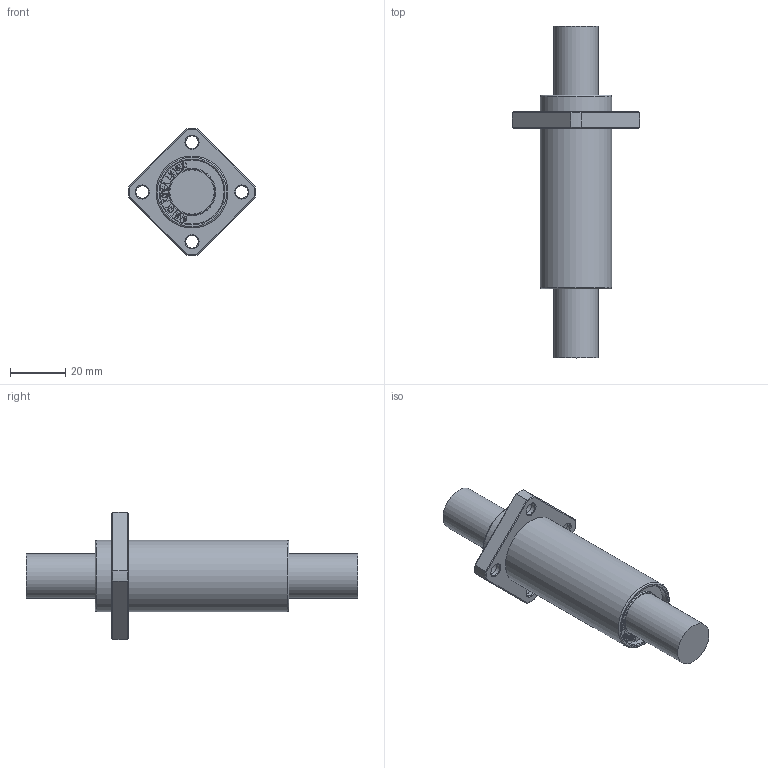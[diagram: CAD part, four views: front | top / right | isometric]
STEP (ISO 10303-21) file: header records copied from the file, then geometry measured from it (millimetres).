
FILE_DESCRIPTION(/* description */ (''),/* implementation_level */ '2;1');
FILE_NAME(/* name */ 'W:\(01) 2024년 홈페이지 CAD파일 최신화\LMEKP_L\IPT\LMEKP16LUU.stp',/* time_stamp */ '2025-01-25T13:04:07+09:00',/* author */ ('서우현'),/* organization */ (''),/* preprocessor_version */ 'ST-DEVELOPER v17.2',/* originating_system */ 'Autodesk Inventor 2019',/* authorisation */ '');
FILE_SCHEMA (('AUTOMOTIVE_DESIGN { 1 0 10303 214 3 1 1 }'));
Length unit declared in the file: millimetre
Products named in the file (1): LM5
Bounding box: 45.98 x 120 x 45.98 mm (x, y, z)
Volume: 49319.9 mm3; surface area: 11814.4 mm2
Topology: 1 solids, 1 shells, 866 faces, 2424 edges, 1616 vertices
Faces by surface type: bspline 588, plane 238, cone 20, cylinder 18, torus 2
Full cylindrical faces by diameter (mm): 4.5 x4, 8 x4, 16 x2, 23.2 x2, 26 x2
Entity records: 29639 total; most frequent: CARTESIAN_POINT 10911, ORIENTED_EDGE 4848, EDGE_CURVE 2424, DIRECTION 1880, VERTEX_POINT 1616, B_SPLINE_CURVE_WITH_KNOTS 1176, LINE 1142, VECTOR 1142
